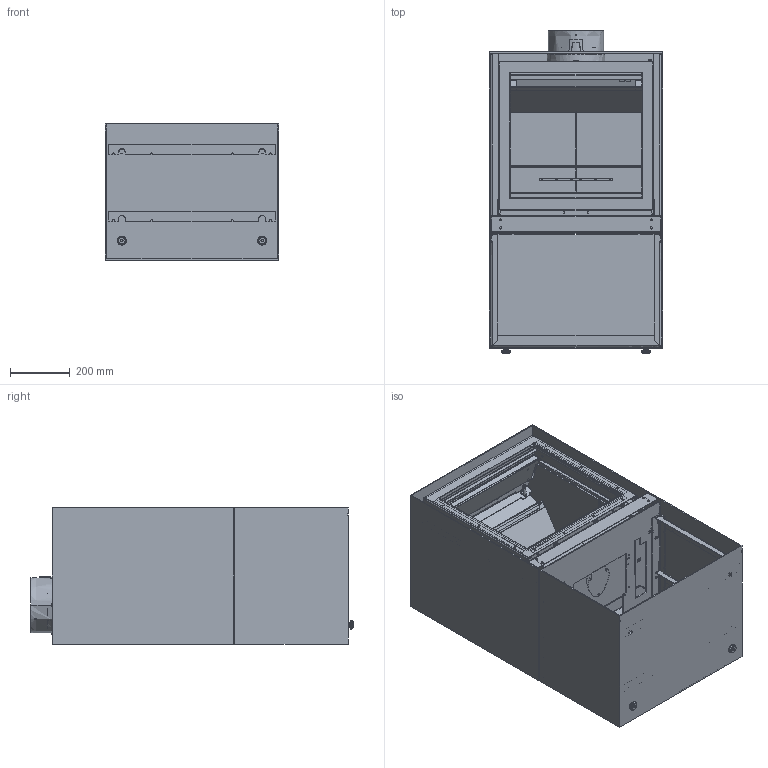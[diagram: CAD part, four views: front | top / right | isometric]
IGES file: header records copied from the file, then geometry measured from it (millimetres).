
Start section:  PTC IGES file: 1658hbase.igs
Global section: file name: 1658hbase.igs; native system: Creo Parametric by Parametric Technology Corporation; preprocessor: 2012230; author: jbo; organization: Unknown; date: 20121106.154211; units: millimetre
Bounding box: 580 x 1080 x 455.8 mm (x, y, z)
Volume: 28129467.5 mm3; surface area: 9273294.3 mm2
Topology: 16 solids, 16 shells, 3864 faces, 10444 edges, 6520 vertices
Faces by surface type: bspline 2409, revolution 1455
